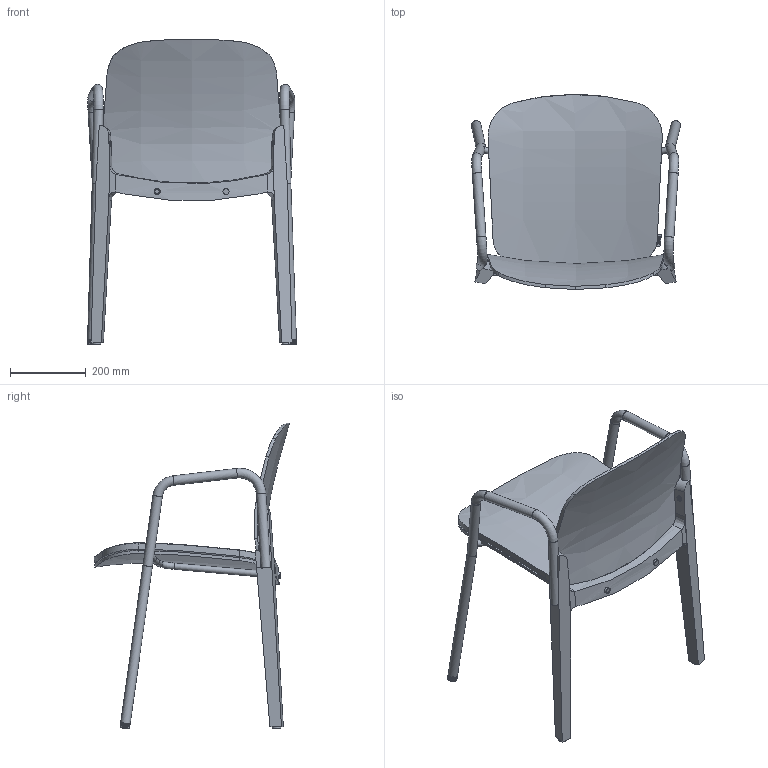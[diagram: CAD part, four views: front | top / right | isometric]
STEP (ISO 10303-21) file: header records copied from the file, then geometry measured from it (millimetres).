
FILE_DESCRIPTION(/* description */ (''),/* implementation_level */ '2;1');
FILE_NAME(/* name */ 'c:\worker\convert-fusion-r07\tmp\job-1\23\output\files\1eba1159-8efe-4d76-a5db-62b2a68c3702\199aabb3-c731-4097-9224-55f3d853b883.stp',/* time_stamp */ '2021-10-21T12:49:13+00:00',/* author */ (''),/* organization */ (''),/* preprocessor_version */ 'ST-DEVELOPER v18.1',/* originating_system */ 'Autodesk Translation Framework v10.10.0.1391',/* authorisation */ '');
FILE_SCHEMA (('AUTOMOTIVE_DESIGN { 1 0 10303 214 3 1 1 }'));
Products named in the file (14): Match WOOD WEB; Match Metalic Assembly V6 v21; match tubo lateral der V3 v4; contera pata metalica v2; taco pata madera v2; Tornillo embellecedor cabeza plana allen 6x35 v2; match assembly madera PP v8 v5; match barra izq PP; Match plastón respaldo assembly v4; Match respaldo físico T1 plastón v14; Match Bastidor Assembly v8 v11; Match bastidor físico v5; Match espuma bastidor (con forma) v1; Etiqueta v1
Assembly tree (16 placements, depth 3):
  Match WOOD WEB
    Match Metalic Assembly V6 v21
      match tubo lateral der V3 v4
    contera pata metalica v2  x2
    taco pata madera v2  x2
    Tornillo embellecedor cabeza plana allen 6x35 v2  x2
    match assembly madera PP v8 v5
      match barra izq PP
    Match plastón respaldo assembly v4
      Match respaldo físico T1 plastón v14
    Match Bastidor Assembly v8 v11
      Match bastidor físico v5
      Match espuma bastidor (con forma) v1
      Etiqueta v1
Bounding box: 552.48 x 515.29 x 807.6 mm (x, y, z)
Volume: 8322858.7 mm3; surface area: 1875125.6 mm2
Topology: 13 solids, 17 shells, 620 faces, 1675 edges, 1113 vertices
Faces by surface type: cylinder 252, plane 183, bspline 139, cone 26, torus 20
Full cylindrical faces by diameter (mm): 1.587 x4, 2 x4, 4 x2, 4.701 x68, 5 x4, 5.5 x2, 5.556 x2, 6 x70, 8 x2, 9 x2, 12 x4, 13 x2, 15 x2, 16 x10, 16.51 x2, 18.542 x8, 22 x8, 22.225 x2, 23.622 x6, 25 x8, 25.4 x2
Entity records: 36913 total; most frequent: CARTESIAN_POINT 25094, ORIENTED_EDGE 2704, DIRECTION 1873, EDGE_CURVE 1352, VERTEX_POINT 902, AXIS2_PLACEMENT_3D 658, LINE 557, VECTOR 557
